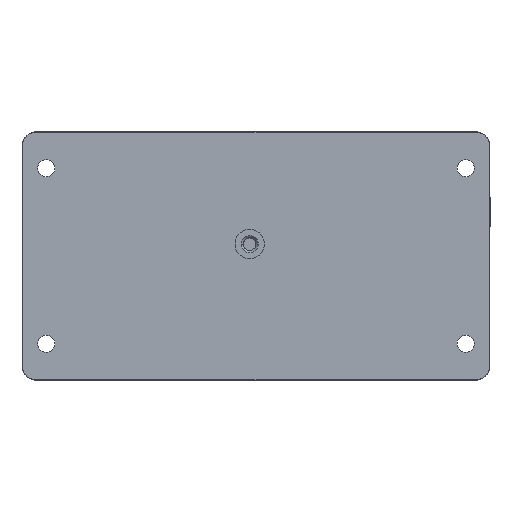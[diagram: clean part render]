
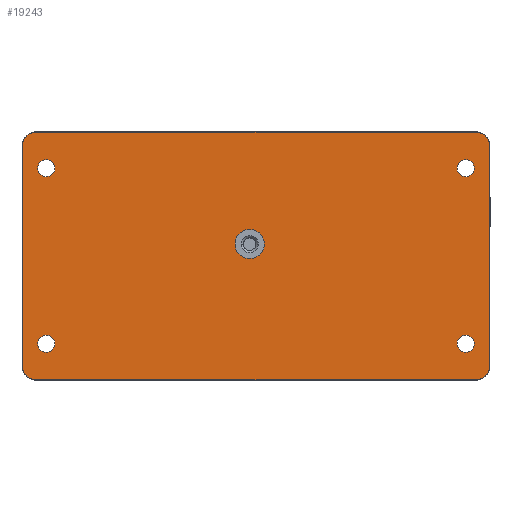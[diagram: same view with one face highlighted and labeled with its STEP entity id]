
A CAD part, top view. The second image highlights one B-rep face of the part: STEP entity #19243.
In plain terms, the highlighted planar face has unit normal (0, 0, 1) as drawn and (0, 0, -1) by its records, which use the part's own axes.
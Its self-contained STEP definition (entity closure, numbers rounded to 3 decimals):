
#14341=CARTESIAN_POINT('',(0.94,0.94,-3.5));
#14342=VERTEX_POINT('',#14341);
#14358=CARTESIAN_POINT('',(0.122,2.55,-3.5));
#14359=VERTEX_POINT('',#14358);
#14366=CARTESIAN_POINT('',(3.,3.,-3.5));
#14367=DIRECTION('',(0.0,0.0,-1.0));
#14368=DIRECTION('',(-0.707,-0.707,0.0));
#14369=AXIS2_PLACEMENT_3D('',#14366,#14367,#14368);
#14370=CIRCLE('',#14369,2.913);
#14371=EDGE_CURVE('',#14359,#14342,#14370,.F.);
#14383=CARTESIAN_POINT('',(95.06,0.94,-3.5));
#14384=VERTEX_POINT('',#14383);
#14400=CARTESIAN_POINT('',(93.0,0.087,-3.5));
#14401=VERTEX_POINT('',#14400);
#14408=CARTESIAN_POINT('',(93.0,3.,-3.5));
#14409=DIRECTION('',(0.0,0.0,-1.0));
#14410=DIRECTION('',(0.707,-0.707,0.0));
#14411=AXIS2_PLACEMENT_3D('',#14408,#14409,#14410);
#14412=CIRCLE('',#14411,2.913);
#14413=EDGE_CURVE('',#14401,#14384,#14412,.F.);
#14509=CARTESIAN_POINT('',(46.3,27.95,-3.5));
#14510=VERTEX_POINT('',#14509);
#14526=CARTESIAN_POINT('',(52.3,27.95,-3.5));
#14527=VERTEX_POINT('',#14526);
#14534=CARTESIAN_POINT('',(49.3,27.95,-3.5));
#14535=DIRECTION('',(0.0,0.0,1.0));
#14536=DIRECTION('',(-1.0,0.0,0.0));
#14537=AXIS2_PLACEMENT_3D('',#14534,#14535,#14536);
#14538=CIRCLE('',#14537,3.);
#14539=EDGE_CURVE('',#14510,#14527,#14538,.T.);
#14761=CARTESIAN_POINT('',(3.25,7.5,-3.5));
#14762=VERTEX_POINT('',#14761);
#14778=CARTESIAN_POINT('',(6.75,7.5,-3.5));
#14779=VERTEX_POINT('',#14778);
#14786=CARTESIAN_POINT('',(5.,7.5,-3.5));
#14787=DIRECTION('',(0.0,0.0,1.0));
#14788=DIRECTION('',(1.0,0.0,0.0));
#14789=AXIS2_PLACEMENT_3D('',#14786,#14787,#14788);
#14790=CIRCLE('',#14789,1.75);
#14791=EDGE_CURVE('',#14762,#14779,#14790,.T.);
#14971=CARTESIAN_POINT('',(89.25,7.5,-3.5));
#14972=VERTEX_POINT('',#14971);
#14988=CARTESIAN_POINT('',(92.75,7.5,-3.5));
#14989=VERTEX_POINT('',#14988);
#14996=CARTESIAN_POINT('',(91.,7.5,-3.5));
#14997=DIRECTION('',(0.0,0.0,1.0));
#14998=DIRECTION('',(1.0,0.0,0.0));
#14999=AXIS2_PLACEMENT_3D('',#14996,#14997,#14998);
#15000=CIRCLE('',#14999,1.75);
#15001=EDGE_CURVE('',#14972,#14989,#15000,.T.);
#15181=CARTESIAN_POINT('',(89.25,43.5,-3.5));
#15182=VERTEX_POINT('',#15181);
#15198=CARTESIAN_POINT('',(92.75,43.5,-3.5));
#15199=VERTEX_POINT('',#15198);
#15206=CARTESIAN_POINT('',(91.,43.5,-3.5));
#15207=DIRECTION('',(0.0,0.0,1.0));
#15208=DIRECTION('',(1.0,0.0,0.0));
#15209=AXIS2_PLACEMENT_3D('',#15206,#15207,#15208);
#15210=CIRCLE('',#15209,1.75);
#15211=EDGE_CURVE('',#15182,#15199,#15210,.T.);
#15349=CARTESIAN_POINT('',(3.25,43.5,-3.5));
#15350=VERTEX_POINT('',#15349);
#15366=CARTESIAN_POINT('',(6.75,43.5,-3.5));
#15367=VERTEX_POINT('',#15366);
#15374=CARTESIAN_POINT('',(5.,43.5,-3.5));
#15375=DIRECTION('',(0.0,0.0,1.0));
#15376=DIRECTION('',(1.0,0.0,0.0));
#15377=AXIS2_PLACEMENT_3D('',#15374,#15375,#15376);
#15378=CIRCLE('',#15377,1.75);
#15379=EDGE_CURVE('',#15350,#15367,#15378,.T.);
#17029=CARTESIAN_POINT('',(0.94,50.06,-3.5));
#17030=VERTEX_POINT('',#17029);
#17046=CARTESIAN_POINT('',(3.,50.913,-3.5));
#17047=VERTEX_POINT('',#17046);
#17054=CARTESIAN_POINT('',(3.,48.,-3.5));
#17055=DIRECTION('',(0.0,0.0,-1.0));
#17056=DIRECTION('',(-0.707,0.707,0.0));
#17057=AXIS2_PLACEMENT_3D('',#17054,#17055,#17056);
#17058=CIRCLE('',#17057,2.913);
#17059=EDGE_CURVE('',#17047,#17030,#17058,.F.);
#17071=CARTESIAN_POINT('',(95.06,50.06,-3.5));
#17072=VERTEX_POINT('',#17071);
#17088=CARTESIAN_POINT('',(95.878,48.45,-3.5));
#17089=VERTEX_POINT('',#17088);
#17096=CARTESIAN_POINT('',(93.,48.,-3.5));
#17097=DIRECTION('',(0.0,0.0,-1.));
#17098=DIRECTION('',(0.707,0.707,0.0));
#17099=AXIS2_PLACEMENT_3D('',#17096,#17097,#17098);
#17100=CIRCLE('',#17099,2.913);
#17101=EDGE_CURVE('',#17089,#17072,#17100,.F.);
#19015=CARTESIAN_POINT('',(95.878,2.55,-3.5));
#19016=VERTEX_POINT('',#19015);
#19025=CARTESIAN_POINT('',(95.878,48.45,-3.5));
#19026=DIRECTION('',(0.0,-1.0,0.0));
#19027=VECTOR('',#19026,45.899);
#19028=LINE('',#19025,#19027);
#19029=EDGE_CURVE('',#19016,#17089,#19028,.F.);
#19078=CARTESIAN_POINT('',(0.122,48.45,-3.5));
#19079=VERTEX_POINT('',#19078);
#19088=CARTESIAN_POINT('',(0.122,2.55,-3.5));
#19089=DIRECTION('',(0.0,1.0,0.0));
#19090=VECTOR('',#19089,45.899);
#19091=LINE('',#19088,#19090);
#19092=EDGE_CURVE('',#19079,#14359,#19091,.F.);
#19136=CARTESIAN_POINT('',(48.0,25.5,-3.5));
#19137=DIRECTION('',(0.0,0.0,1.0));
#19138=DIRECTION('',(1.0,0.0,0.0));
#19139=AXIS2_PLACEMENT_3D('',#19136,#19137,#19138);
#19140=PLANE('',#19139);
#19141=ORIENTED_EDGE('',*,*,#17059,.F.);
#19142=CARTESIAN_POINT('',(93.,50.913,-3.5));
#19143=VERTEX_POINT('',#19142);
#19144=CARTESIAN_POINT('',(3.,50.913,-3.5));
#19145=DIRECTION('',(1.0,0.0,0.0));
#19146=VECTOR('',#19145,90.0);
#19147=LINE('',#19144,#19146);
#19148=EDGE_CURVE('',#19143,#17047,#19147,.F.);
#19149=ORIENTED_EDGE('',*,*,#19148,.F.);
#19150=CARTESIAN_POINT('',(93.,48.,-3.5));
#19151=DIRECTION('',(0.0,0.0,-1.));
#19152=DIRECTION('',(0.707,0.707,0.0));
#19153=AXIS2_PLACEMENT_3D('',#19150,#19151,#19152);
#19154=CIRCLE('',#19153,2.913);
#19155=EDGE_CURVE('',#17072,#19143,#19154,.F.);
#19156=ORIENTED_EDGE('',*,*,#19155,.F.);
#19157=ORIENTED_EDGE('',*,*,#17101,.F.);
#19158=ORIENTED_EDGE('',*,*,#19029,.F.);
#19159=CARTESIAN_POINT('',(93.0,3.,-3.5));
#19160=DIRECTION('',(0.0,0.0,-1.0));
#19161=DIRECTION('',(0.707,-0.707,0.0));
#19162=AXIS2_PLACEMENT_3D('',#19159,#19160,#19161);
#19163=CIRCLE('',#19162,2.913);
#19164=EDGE_CURVE('',#14384,#19016,#19163,.F.);
#19165=ORIENTED_EDGE('',*,*,#19164,.F.);
#19166=ORIENTED_EDGE('',*,*,#14413,.F.);
#19167=CARTESIAN_POINT('',(3.,0.087,-3.5));
#19168=VERTEX_POINT('',#19167);
#19169=CARTESIAN_POINT('',(93.0,0.087,-3.5));
#19170=DIRECTION('',(-1.0,0.0,0.0));
#19171=VECTOR('',#19170,90.0);
#19172=LINE('',#19169,#19171);
#19173=EDGE_CURVE('',#19168,#14401,#19172,.F.);
#19174=ORIENTED_EDGE('',*,*,#19173,.F.);
#19175=CARTESIAN_POINT('',(3.,3.,-3.5));
#19176=DIRECTION('',(0.0,0.0,-1.0));
#19177=DIRECTION('',(-0.707,-0.707,0.0));
#19178=AXIS2_PLACEMENT_3D('',#19175,#19176,#19177);
#19179=CIRCLE('',#19178,2.913);
#19180=EDGE_CURVE('',#14342,#19168,#19179,.F.);
#19181=ORIENTED_EDGE('',*,*,#19180,.F.);
#19182=ORIENTED_EDGE('',*,*,#14371,.F.);
#19183=ORIENTED_EDGE('',*,*,#19092,.F.);
#19184=CARTESIAN_POINT('',(3.,48.,-3.5));
#19185=DIRECTION('',(0.0,0.0,-1.0));
#19186=DIRECTION('',(-0.707,0.707,0.0));
#19187=AXIS2_PLACEMENT_3D('',#19184,#19185,#19186);
#19188=CIRCLE('',#19187,2.913);
#19189=EDGE_CURVE('',#17030,#19079,#19188,.F.);
#19190=ORIENTED_EDGE('',*,*,#19189,.F.);
#19191=EDGE_LOOP('',(#19141,#19149,#19156,#19157,#19158,#19165,#19166,#19174,#19181,#19182,#19183,#19190));
#19192=FACE_OUTER_BOUND('',#19191,.T.);
#19193=ORIENTED_EDGE('',*,*,#15001,.T.);
#19194=CARTESIAN_POINT('',(91.,7.5,-3.5));
#19195=DIRECTION('',(0.0,0.0,1.0));
#19196=DIRECTION('',(1.0,0.0,0.0));
#19197=AXIS2_PLACEMENT_3D('',#19194,#19195,#19196);
#19198=CIRCLE('',#19197,1.75);
#19199=EDGE_CURVE('',#14989,#14972,#19198,.T.);
#19200=ORIENTED_EDGE('',*,*,#19199,.T.);
#19201=EDGE_LOOP('',(#19193,#19200));
#19202=FACE_BOUND('',#19201,.T.);
#19203=ORIENTED_EDGE('',*,*,#14791,.T.);
#19204=CARTESIAN_POINT('',(5.,7.5,-3.5));
#19205=DIRECTION('',(0.0,0.0,1.0));
#19206=DIRECTION('',(1.0,0.0,0.0));
#19207=AXIS2_PLACEMENT_3D('',#19204,#19205,#19206);
#19208=CIRCLE('',#19207,1.75);
#19209=EDGE_CURVE('',#14779,#14762,#19208,.T.);
#19210=ORIENTED_EDGE('',*,*,#19209,.T.);
#19211=EDGE_LOOP('',(#19203,#19210));
#19212=FACE_BOUND('',#19211,.T.);
#19213=ORIENTED_EDGE('',*,*,#15211,.T.);
#19214=CARTESIAN_POINT('',(91.,43.5,-3.5));
#19215=DIRECTION('',(0.0,0.0,1.0));
#19216=DIRECTION('',(1.0,0.0,0.0));
#19217=AXIS2_PLACEMENT_3D('',#19214,#19215,#19216);
#19218=CIRCLE('',#19217,1.75);
#19219=EDGE_CURVE('',#15199,#15182,#19218,.T.);
#19220=ORIENTED_EDGE('',*,*,#19219,.T.);
#19221=EDGE_LOOP('',(#19213,#19220));
#19222=FACE_BOUND('',#19221,.T.);
#19223=ORIENTED_EDGE('',*,*,#15379,.T.);
#19224=CARTESIAN_POINT('',(5.,43.5,-3.5));
#19225=DIRECTION('',(0.0,0.0,1.0));
#19226=DIRECTION('',(1.0,0.0,0.0));
#19227=AXIS2_PLACEMENT_3D('',#19224,#19225,#19226);
#19228=CIRCLE('',#19227,1.75);
#19229=EDGE_CURVE('',#15367,#15350,#19228,.T.);
#19230=ORIENTED_EDGE('',*,*,#19229,.T.);
#19231=EDGE_LOOP('',(#19223,#19230));
#19232=FACE_BOUND('',#19231,.T.);
#19233=ORIENTED_EDGE('',*,*,#14539,.T.);
#19234=CARTESIAN_POINT('',(49.3,27.95,-3.5));
#19235=DIRECTION('',(0.0,0.0,1.0));
#19236=DIRECTION('',(-1.0,0.0,0.0));
#19237=AXIS2_PLACEMENT_3D('',#19234,#19235,#19236);
#19238=CIRCLE('',#19237,3.);
#19239=EDGE_CURVE('',#14527,#14510,#19238,.T.);
#19240=ORIENTED_EDGE('',*,*,#19239,.T.);
#19241=EDGE_LOOP('',(#19233,#19240));
#19242=FACE_BOUND('',#19241,.T.);
#19243=ADVANCED_FACE('',(#19192,#19202,#19212,#19222,#19232,#19242),#19140,.F.);
